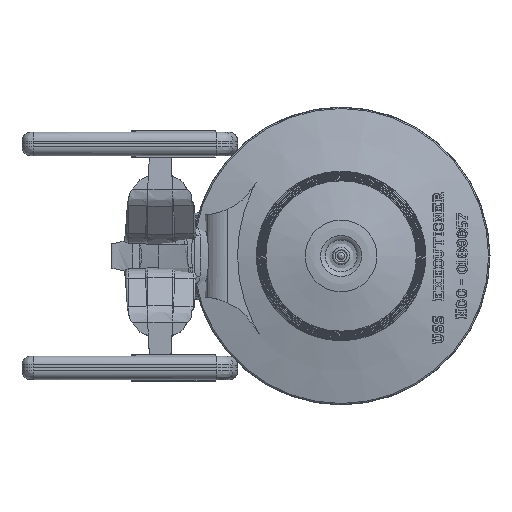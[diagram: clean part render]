
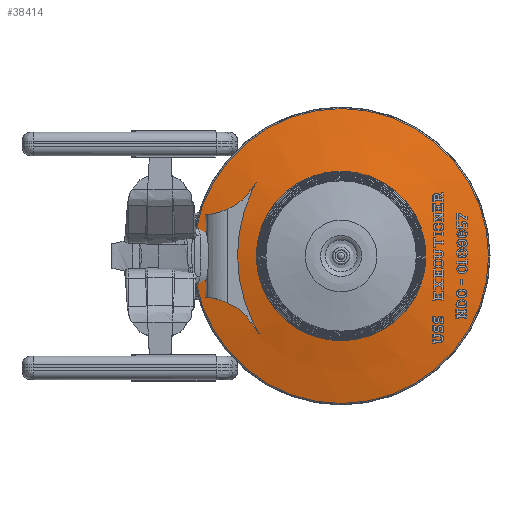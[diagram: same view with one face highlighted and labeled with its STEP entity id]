
A CAD part, top view. The second image highlights one B-rep face of the part: STEP entity #38414.
In plain terms, the highlighted conical face has half-angle 76.844 degrees and reference radius 999.817 mm.
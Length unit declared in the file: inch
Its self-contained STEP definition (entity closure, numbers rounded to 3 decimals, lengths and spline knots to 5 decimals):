
#38380=CARTESIAN_POINT('',(8.33374,8.99161,3.32021));
#38381=VERTEX_POINT('',#38380);
#38382=CARTESIAN_POINT('',(37.08572,8.99161,3.32021));
#38383=DIRECTION('',(0.0,0.0,-1.0));
#38384=DIRECTION('',(-1.0,0.0,0.0));
#38385=AXIS2_PLACEMENT_3D('',#38382,#38383,#38384);
#38386=CIRCLE('',#38385,28.75199);
#38387=EDGE_CURVE('',#38381,#38381,#38386,.T.);
#38395=CARTESIAN_POINT('',(37.08572,8.99161,0.83996));
#38396=DIRECTION('',(0.0,0.0,-1.0));
#38397=DIRECTION('',(-1.0,0.0,0.0));
#38398=AXIS2_PLACEMENT_3D('',#38395,#38396,#38397);
#38399=CONICAL_SURFACE('',#38398,39.36288,76.844);
#38400=CARTESIAN_POINT('',(-12.88806,8.99161,-1.64029));
#38401=VERTEX_POINT('',#38400);
#38402=CARTESIAN_POINT('',(37.08572,8.99161,-1.64029));
#38403=DIRECTION('',(0.0,0.0,-1.0));
#38404=DIRECTION('',(-1.0,0.0,0.0));
#38405=AXIS2_PLACEMENT_3D('',#38402,#38403,#38404);
#38406=CIRCLE('',#38405,49.97378);
#38407=EDGE_CURVE('',#38401,#38401,#38406,.T.);
#38408=ORIENTED_EDGE('',*,*,#38407,.F.);
#38409=EDGE_LOOP('',(#38408));
#38410=FACE_OUTER_BOUND('',#38409,.T.);
#38411=ORIENTED_EDGE('',*,*,#38387,.T.);
#38412=EDGE_LOOP('',(#38411));
#38413=FACE_BOUND('',#38412,.T.);
#38414=ADVANCED_FACE('',(#38410,#38413),#38399,.T.);
